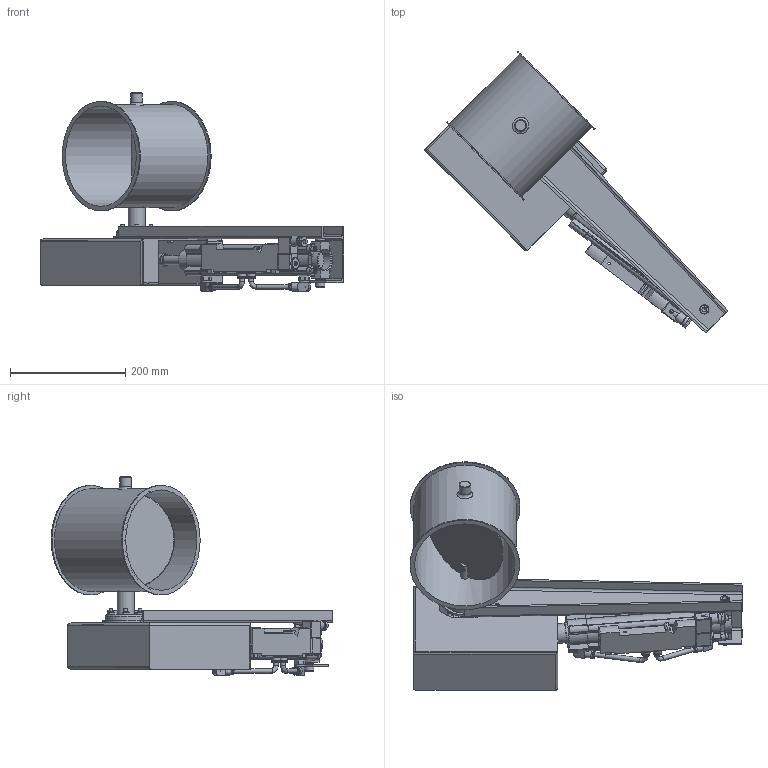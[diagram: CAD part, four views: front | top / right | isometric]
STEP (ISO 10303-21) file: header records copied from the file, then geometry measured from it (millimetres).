
FILE_DESCRIPTION((''),'2;1');
FILE_NAME('U:\Wolfgang\Marcel-3D\fertig\Kapitel 8\1721211.stp','2011-05-03T15:00:55',('TK1'),(''),'Autodesk Inventor 2010','Autodesk Inventor 2010','');
FILE_SCHEMA(('AUTOMOTIVE_DESIGN { 1 0 10303 214 1 1 1 1 }'));
Length unit declared in the file: millimetre
Products named in the file (38): 1721211; BuchseD15 70-50; Bolzen D15; Scheibe170; F1 Zylindereinheit; 174412_ZNCF_40_6_0; 174412_ZNCF_40_6_01; 174412_ZNCF_40_6_02; 174412_ZNCF_40_6_03; 174412_ZNCF_40_6_04; 174412_ZNCF_40_6_05; 532743_DNCB_40_160_PPV_A_6_0; 532743_DNCB_40_160_PPV_A_6_01; 532743_DNCB_40_160_PPV_A_6_02; 537600_VUVB_S_B42_ZD_Q8_3AC1_6_0; 537600_VUVB_S_B42_ZD_Q8_3AC1_6_01; 537600_VUVB_S_B42_ZD_Q8_3AC1_6_02; 537600_VUVB_S_B42_ZD_Q8_3AC1_6_03; 4527_MSFG_24_42_50_60_6_0; 4527_MSFG_24_42_50_60_6_01; 4527_MSFG_24_42_50_60_6_02; 153414_QSRL_1_4_8_6_0; schlauch; Strebe d15; 0021088 d15; Bolzen; Schutzkasten; Kasten-a; Kasten-b; 13570_CRSG_M12x125_6_0; ISO 4018 M6 x 20; ISO 4032 M6; ISO 4018 M8 x 30; ISO 4027 M6 x 10; DIN 6912 M6 x 16; DIN EN ISO 4018 M6x25; DIN 555 - ersetzt durch DIN EN 24034 M6; 1721211-1
Assembly tree (50 placements, depth 4):
  1721211
    BuchseD15 70-50
    Bolzen D15  x2
    Scheibe170
    F1 Zylindereinheit
      174412_ZNCF_40_6_0
        174412_ZNCF_40_6_01
        174412_ZNCF_40_6_02
        174412_ZNCF_40_6_03
        174412_ZNCF_40_6_04
        174412_ZNCF_40_6_05
      532743_DNCB_40_160_PPV_A_6_0
        532743_DNCB_40_160_PPV_A_6_01
        532743_DNCB_40_160_PPV_A_6_02
      537600_VUVB_S_B42_ZD_Q8_3AC1_6_0
        537600_VUVB_S_B42_ZD_Q8_3AC1_6_01
        537600_VUVB_S_B42_ZD_Q8_3AC1_6_02
        537600_VUVB_S_B42_ZD_Q8_3AC1_6_03
      4527_MSFG_24_42_50_60_6_0
        4527_MSFG_24_42_50_60_6_01
        4527_MSFG_24_42_50_60_6_02
      153414_QSRL_1_4_8_6_0  x2
      schlauch  x2
      Strebe d15
      0021088 d15
      Bolzen
      Schutzkasten
        Kasten-a
        Kasten-b
      13570_CRSG_M12x125_6_0
      ISO 4018 M6 x 20  x2
      ISO 4032 M6  x2
      ISO 4018 M8 x 30
      ISO 4027 M6 x 10  x2
    DIN 6912 M6 x 16  x2
    DIN EN ISO 4018 M6x25  x4
    DIN 555 - ersetzt durch DIN EN 24034 M6  x4
    1721211-1
Bounding box: 526.09 x 487.92 x 343.27 mm (x, y, z)
Volume: 1574891.4 mm3; surface area: 894073.8 mm2
Topology: 44 solids, 44 shells, 2618 faces, 6949 edges, 4515 vertices
Faces by surface type: plane 1946, cylinder 399, cone 223, bspline 41, torus 7, sphere 2
Full cylindrical faces by diameter (mm): 1 x3, 2.459 x1, 3 x4, 3.5 x1, 4 x1, 4.5 x1, 4.917 x8, 5 x2, 5.471 x2, 5.5 x1, 6 x37, 6.8 x4, 7.188 x1, 8 x10, 8.05 x1, 9 x2, 9.6 x2, 9.653 x1, 10 x8, 10.15 x2, 11.2 x2, 11.445 x2, 12 x6, 12.5 x1, 13.05 x2, 13.157 x2, 14 x8, 14.4 x4, 14.5 x2, 14.7 x6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
Entity records: 76246 total; most frequent: CARTESIAN_POINT 14872, ORIENTED_EDGE 12254, DIRECTION 11805, EDGE_CURVE 6127, VECTOR 4909, LINE 4909, VERTEX_POINT 4152, AXIS2_PLACEMENT_3D 3448
